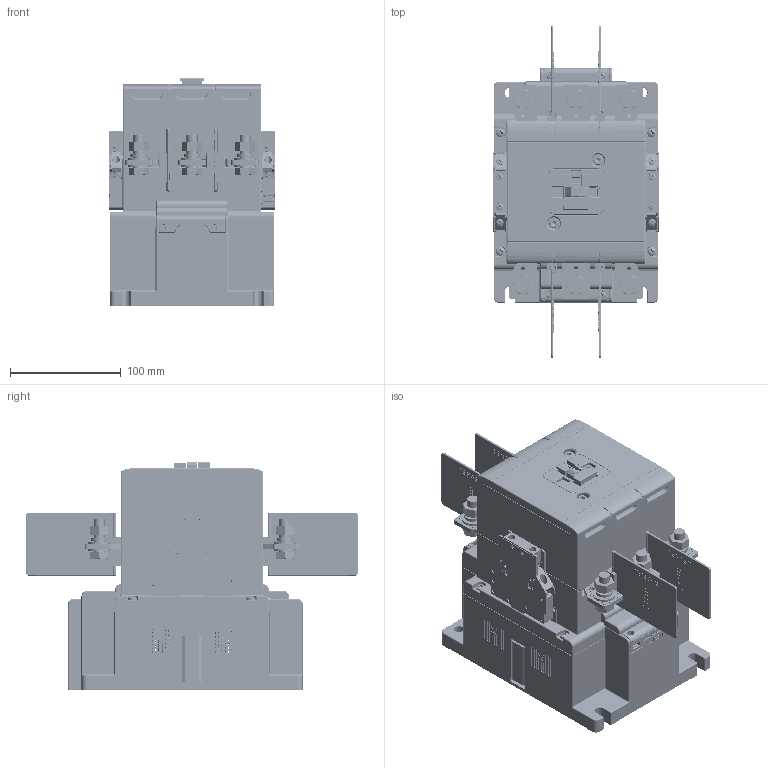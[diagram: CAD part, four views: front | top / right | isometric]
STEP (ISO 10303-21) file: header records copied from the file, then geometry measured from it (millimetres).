
FILE_DESCRIPTION (( 'STEP AP214' ), '1' );
FILE_NAME ('TGC1-265~400A.STEP', '2025-12-22T08:50:31', ( '' ), ( '' ), 'SwSTEP 2.0', 'SolidWorks 2024', '' );
FILE_SCHEMA (( 'AUTOMOTIVE_DESIGN' ));
Length unit declared in the file: millimetre
Products named in the file (227): 8TZD_550_6103.stp; 8TZD_550_6105_AF0.stp; 5TZD_612_6026_ASM.stp; 8TZD_600_6012_AF12.stp; 8TZD_300_6096.stp; GB_T9074_7-M5X15.stp; 8TZD_600_6011_AF56.stp; 8TZD_600_6011_AF22.stp; 8TZD_600_6012_AF52.stp; 5TZD_174_6001_ASM.stp; 8TZD_315_6293_5.stp; 8TZD_282_6091_AF0.stp; 8TZD_600_6012_AF40.stp; 8TZD_315_6293_2.stp; GB_T97_1_10_1.stp; 8TZD_104_6025.stp; GB_T9074_8-M5X15.stp; 8TZD_600_6011_AF42.stp; 5TZD_104_6023_ASM.stp; 8TZD_600_6011_AF4.stp; 8TZD_600_6012_AF54.stp; 8TZD_600_6011_AF50.stp; 8TZD_600_6012_AF8.stp; GB_T70_1-M5X80.stp; 5TZD_550_6041_ASM.stp; 8TZD_287_6005.stp; 8TZD_969_6006_AF1.stp; 8TZD_600_6012_AF25.stp; GB_T97_1_5.stp; 8TZD_600_6011_AF2.stp; 8TZD_600_6011_AF35.stp; 8TZD_616_6011.stp; 8TZD_600_6012_AF29.stp; 8TZD_600_6011_AF53.stp; 8TZD_600_6011_AF39.stp; 5TZD_104_6025_ASM.stp; 8TZD_022_6043.stp; 5TZD_553_6011_ASM.stp; 8TZD_600_6012_AF5.stp; 8TZD_024_6137.stp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
Assembly tree (370 placements, depth 8):
  TGC1-265~400A
    TGC1-265~400A.stp
      5TZD_022_6024_ASM.stp
        5TZD_022_6023_ASM.stp
          5TZD_612_6026_ASM.stp
            8TZD_600_6011_AF0.stp
            8TZD_600_6011_AF1.stp
            8TZD_600_6011_AF2.stp
            8TZD_600_6011_AF3.stp
            8TZD_600_6011_AF4.stp
            8TZD_600_6011_AF5.stp
            8TZD_600_6011_AF6.stp
            8TZD_600_6011_AF7.stp
            8TZD_600_6011_AF8.stp
            8TZD_600_6011_AF9.stp
            8TZD_600_6011_AF10.stp
            8TZD_600_6011_AF11.stp
            8TZD_600_6011_AF12.stp
            8TZD_600_6011_AF13.stp
            8TZD_600_6011_AF14.stp
            8TZD_600_6011_AF15.stp
            8TZD_600_6011_AF16.stp
            8TZD_600_6011_AF17.stp
            8TZD_600_6011_AF18.stp
            8TZD_600_6011_AF19.stp
            8TZD_600_6011_AF20.stp
            8TZD_600_6011_AF21.stp
            8TZD_600_6011_AF22.stp
            8TZD_600_6011_AF23.stp
            8TZD_600_6011_AF24.stp
            8TZD_600_6011_AF25.stp
            8TZD_600_6011_AF26.stp
            8TZD_600_6011_AF27.stp
            8TZD_600_6011_AF28.stp
            8TZD_600_6011_AF29.stp
            8TZD_600_6011_AF30.stp
            8TZD_600_6011_AF31.stp
            8TZD_600_6011_AF32.stp
            8TZD_600_6011_AF33.stp
            8TZD_600_6011_AF34.stp
            8TZD_600_6011_AF35.stp
            8TZD_600_6011_AF36.stp
            8TZD_600_6011_AF37.stp
            8TZD_600_6011_AF38.stp
            8TZD_600_6011_AF39.stp
            8TZD_600_6011_AF40.stp
            8TZD_600_6011_AF41.stp
            8TZD_600_6011_AF42.stp
            8TZD_600_6011_AF43.stp
            8TZD_600_6011_AF44.stp
            8TZD_600_6011_AF45.stp
            8TZD_600_6011_AF46.stp
            8TZD_600_6011_AF47.stp
            8TZD_600_6011_AF48.stp
            8TZD_600_6011_AF49.stp
            8TZD_600_6011_AF50.stp
            8TZD_600_6011_AF51.stp
            8TZD_600_6011_AF52.stp
            8TZD_600_6011_AF53.stp
            8TZD_600_6011_AF54.stp
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Bounding box: 149.4 x 300 x 206.5 mm (x, y, z)
Volume: 1948969.3 mm3; surface area: 2181545.9 mm2
Topology: 310 solids, 468 shells, 50792 faces, 131696 edges, 85289 vertices
Faces by surface type: plane 35252, cylinder 11877, bspline 1339, sphere 863, cone 764, torus 697
Entity records: 1059889 total; most frequent: CARTESIAN_POINT 270741, ORIENTED_EDGE 164340, DIRECTION 158126, EDGE_CURVE 82212, VECTOR 60118, LINE 60118, VERTEX_POINT 53342, AXIS2_PLACEMENT_3D 49004
